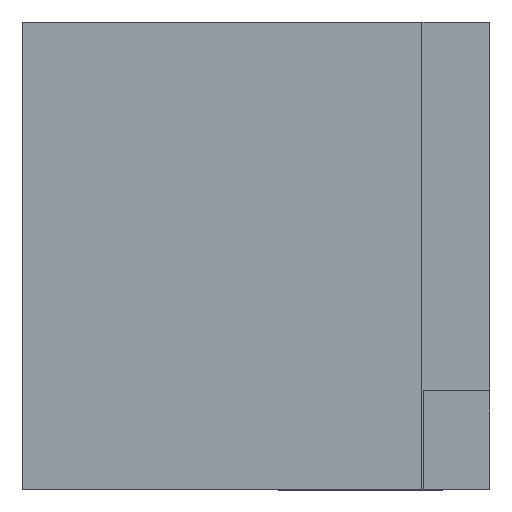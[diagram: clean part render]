
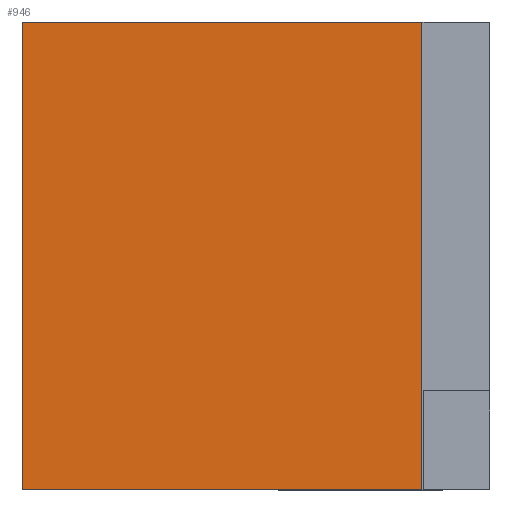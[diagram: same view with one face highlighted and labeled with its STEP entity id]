
A CAD part, top view. The second image highlights one B-rep face of the part: STEP entity #946.
In plain terms, the highlighted planar face has unit normal (0, 0, 1).
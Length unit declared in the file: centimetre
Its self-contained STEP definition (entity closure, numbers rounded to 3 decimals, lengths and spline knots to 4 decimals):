
#71 = DIRECTION ( 'NONE',  ( -1., 0., 0. ) ) ;
#149 = ORIENTED_EDGE ( 'NONE', *, *, #437, .T. ) ;
#162 = CARTESIAN_POINT ( 'NONE',  ( 855.2814, 0., 1000. ) ) ;
#179 = EDGE_CURVE ( 'NONE', #376, #951, #796, .T. ) ;
#190 = FACE_OUTER_BOUND ( 'NONE', #955, .T. ) ;
#207 = LINE ( 'NONE', #450, #1016 ) ;
#248 = LINE ( 'NONE', #321, #280 ) ;
#252 = CARTESIAN_POINT ( 'NONE',  ( 855.2814, 1000., 1000. ) ) ;
#280 = VECTOR ( 'NONE', #71, 100. ) ;
#321 = CARTESIAN_POINT ( 'NONE',  ( 0., 1000., 1000. ) ) ;
#342 = DIRECTION ( 'NONE',  ( 0., 0., 1. ) ) ;
#356 = CARTESIAN_POINT ( 'NONE',  ( 0., 0., 1000. ) ) ;
#368 = ORIENTED_EDGE ( 'NONE', *, *, #371, .T. ) ;
#371 = EDGE_CURVE ( 'NONE', #794, #376, #248, .T. ) ;
#372 = ORIENTED_EDGE ( 'NONE', *, *, #179, .T. ) ;
#376 = VERTEX_POINT ( 'NONE', #983 ) ;
#385 = ORIENTED_EDGE ( 'NONE', *, *, #974, .T. ) ;
#390 = DIRECTION ( 'NONE',  ( 0., -1., 0. ) ) ;
#405 = DIRECTION ( 'NONE',  ( 0., 1., 0. ) ) ;
#437 = EDGE_CURVE ( 'NONE', #459, #794, #897, .T. ) ;
#447 = VECTOR ( 'NONE', #405, 100. ) ;
#450 = CARTESIAN_POINT ( 'NONE',  ( 0., 0., 1000. ) ) ;
#459 = VERTEX_POINT ( 'NONE', #654 ) ;
#593 = DIRECTION ( 'NONE',  ( 1., 0., 0. ) ) ;
#640 = VECTOR ( 'NONE', #390, 100. ) ;
#654 = CARTESIAN_POINT ( 'NONE',  ( 855.2814, 0., 1000. ) ) ;
#692 = CARTESIAN_POINT ( 'NONE',  ( 0., 0., 1000. ) ) ;
#794 = VERTEX_POINT ( 'NONE', #252 ) ;
#796 = LINE ( 'NONE', #853, #640 ) ;
#853 = CARTESIAN_POINT ( 'NONE',  ( 0., 1000., 1000. ) ) ;
#874 = AXIS2_PLACEMENT_3D ( 'NONE', #692, #342, #593 ) ;
#897 = LINE ( 'NONE', #162, #447 ) ;
#943 = PLANE ( 'NONE',  #874 ) ;
#946 = ADVANCED_FACE ( 'NONE', ( #190 ), #943, .T. ) ;
#951 = VERTEX_POINT ( 'NONE', #356 ) ;
#955 = EDGE_LOOP ( 'NONE', ( #149, #368, #372, #385 ) ) ;
#974 = EDGE_CURVE ( 'NONE', #951, #459, #207, .T. ) ;
#983 = CARTESIAN_POINT ( 'NONE',  ( 0., 1000., 1000. ) ) ;
#1016 = VECTOR ( 'NONE', #1019, 100. ) ;
#1019 = DIRECTION ( 'NONE',  ( 1., 0., 0. ) ) ;
